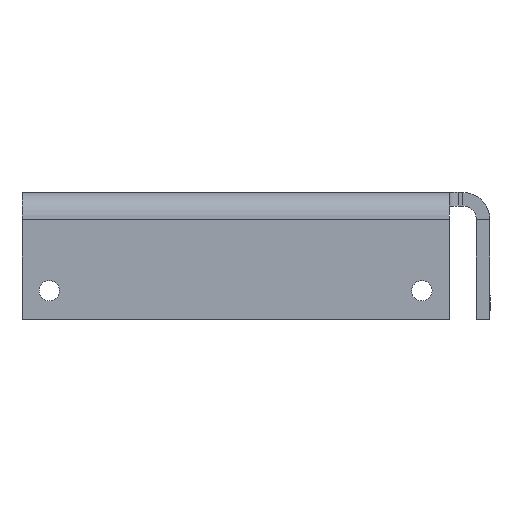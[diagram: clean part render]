
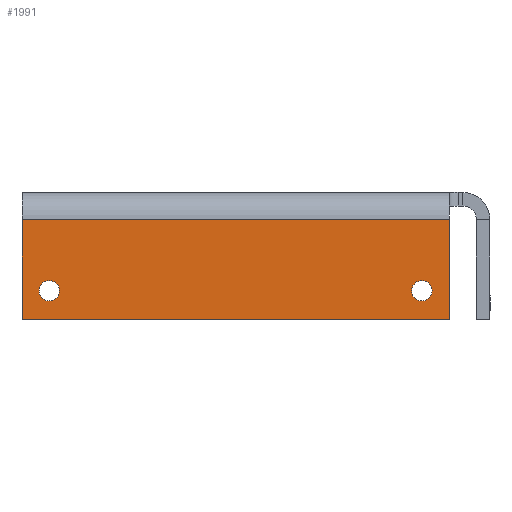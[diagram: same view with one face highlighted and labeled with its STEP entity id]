
A CAD part, left-side view. The second image highlights one B-rep face of the part: STEP entity #1991.
In plain terms, the highlighted planar face has unit normal (-1, 0, 0).
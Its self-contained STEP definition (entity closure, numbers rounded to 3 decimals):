
#16=FACE_BOUND('',#393,.T.);
#17=FACE_BOUND('',#394,.T.);
#176=PLANE('',#2237);
#281=FACE_OUTER_BOUND('',#392,.T.);
#392=EDGE_LOOP('',(#1666,#1667,#1668,#1669));
#393=EDGE_LOOP('',(#1670));
#394=EDGE_LOOP('',(#1671));
#581=LINE('',#3296,#716);
#586=LINE('',#3309,#721);
#593=LINE('',#3327,#728);
#595=LINE('',#3330,#730);
#716=VECTOR('',#2748,10.);
#721=VECTOR('',#2759,4.32);
#728=VECTOR('',#2778,10.);
#730=VECTOR('',#2782,10.);
#774=CIRCLE('',#2041,2.248);
#798=CIRCLE('',#2081,2.248);
#913=VERTEX_POINT('',#2924);
#937=VERTEX_POINT('',#3004);
#1026=VERTEX_POINT('',#3294);
#1027=VERTEX_POINT('',#3295);
#1032=VERTEX_POINT('',#3307);
#1037=VERTEX_POINT('',#3326);
#1076=EDGE_CURVE('',#913,#913,#774,.T.);
#1116=EDGE_CURVE('',#937,#937,#798,.T.);
#1260=EDGE_CURVE('',#1026,#1027,#581,.T.);
#1267=EDGE_CURVE('',#1027,#1032,#586,.T.);
#1276=EDGE_CURVE('',#1037,#1026,#593,.T.);
#1278=EDGE_CURVE('',#1032,#1037,#595,.T.);
#1666=ORIENTED_EDGE('',*,*,#1260,.T.);
#1667=ORIENTED_EDGE('',*,*,#1267,.T.);
#1668=ORIENTED_EDGE('',*,*,#1278,.T.);
#1669=ORIENTED_EDGE('',*,*,#1276,.T.);
#1670=ORIENTED_EDGE('',*,*,#1076,.T.);
#1671=ORIENTED_EDGE('',*,*,#1116,.T.);
#1991=ADVANCED_FACE('',(#281,#16,#17),#176,.T.);
#2041=AXIS2_PLACEMENT_3D('',#2926,#2307,#2308);
#2081=AXIS2_PLACEMENT_3D('',#3006,#2403,#2404);
#2237=AXIS2_PLACEMENT_3D('',#3333,#2786,#2787);
#2307=DIRECTION('center_axis',(1.,0.,0.));
#2308=DIRECTION('ref_axis',(0.,0.,-1.));
#2403=DIRECTION('center_axis',(1.,0.,0.));
#2404=DIRECTION('ref_axis',(0.,0.,-1.));
#2748=DIRECTION('',(0.,1.,0.));
#2759=DIRECTION('',(0.,0.,-1.));
#2778=DIRECTION('',(0.,0.,1.));
#2782=DIRECTION('',(0.,-1.,0.));
#2786=DIRECTION('center_axis',(-1.,0.,0.));
#2787=DIRECTION('ref_axis',(0.,0.,
1.));
#2924=CARTESIAN_POINT('',(-6.,-88.,-16.402));
#2926=CARTESIAN_POINT('Origin',(-6.,-88.,-18.65));
#3004=CARTESIAN_POINT('',(-6.,-6.,-16.402));
#3006=CARTESIAN_POINT('Origin',(-6.,-6.,-18.65));
#3294=CARTESIAN_POINT('',(-6.,-94.,-3.));
#3295=CARTESIAN_POINT('',(-6.,0.,-3.));
#3296=CARTESIAN_POINT('',(-6.,-47.,-3.));
#3307=CARTESIAN_POINT('',(-6.,0.,-25.));
#3309=CARTESIAN_POINT('',(-6.,0.,10.572));
#3326=CARTESIAN_POINT('',(-6.,-94.,-25.));
#3327=CARTESIAN_POINT('',(-6.,-94.,-3.));
#3330=CARTESIAN_POINT('',(-6.,-94.,-25.));
#3333=CARTESIAN_POINT('Origin',(-6.,-48.5,225.786));
